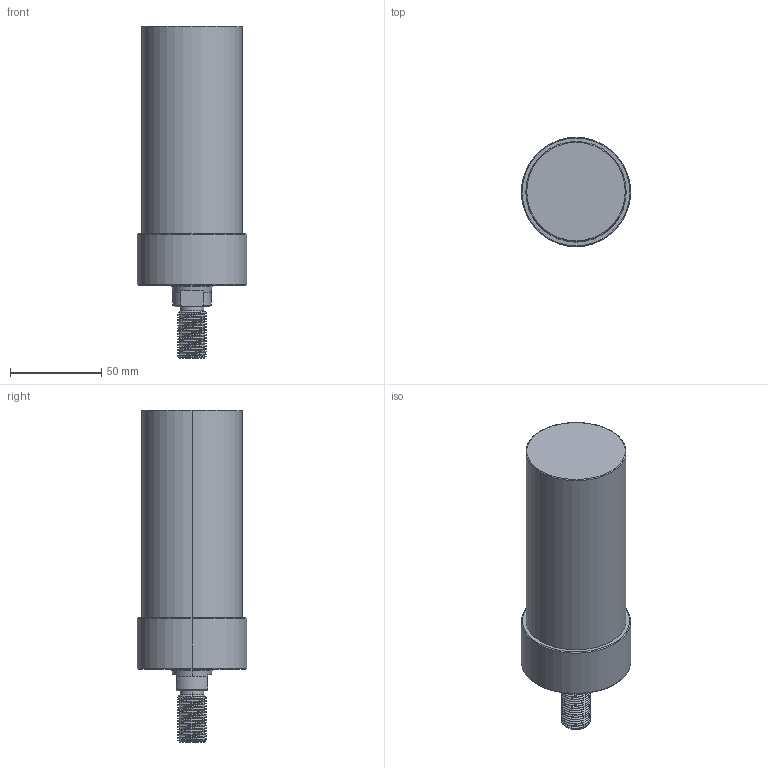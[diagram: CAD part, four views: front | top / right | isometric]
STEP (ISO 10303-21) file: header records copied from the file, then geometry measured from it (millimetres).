
FILE_DESCRIPTION (( 'STEP AP203' ), '1' );
FILE_NAME ('CLLU-055GT-085.STEP', '2020-01-16T01:48:46', ( '' ), ( '' ), 'SwSTEP 2.0', 'SolidWorks 2015', '' );
FILE_SCHEMA (( 'CONFIG_CONTROL_DESIGN' ));
Length unit declared in the file: millimetre
Products named in the file (1): CLLU-055GT-085
Bounding box: 60 x 60 x 182 mm (x, y, z)
Volume: 357258.7 mm3; surface area: 34696.1 mm2
Topology: 1 solids, 1 shells, 102 faces, 254 edges, 155 vertices
Faces by surface type: cylinder 56, cone 26, plane 12, torus 6, bspline 2
Entity records: 4913 total; most frequent: CARTESIAN_POINT 2622, ORIENTED_EDGE 492, DIRECTION 445, EDGE_CURVE 246, AXIS2_PLACEMENT_3D 178, VERTEX_POINT 155, EDGE_LOOP 111, ADVANCED_FACE 102
